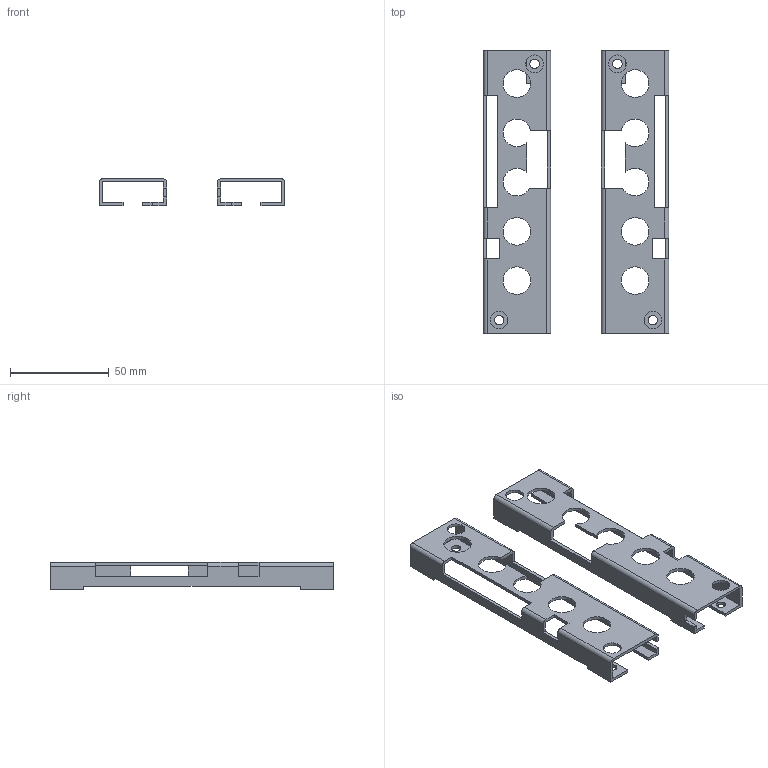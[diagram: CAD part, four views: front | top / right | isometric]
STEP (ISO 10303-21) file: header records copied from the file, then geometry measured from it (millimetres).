
FILE_DESCRIPTION (( 'STEP AP203' ), '1' );
FILE_NAME ('MS-NA3.STEP', '2005-10-27T00:16:06', ( '' ), ( '' ), 'SwSTEP 2.0', 'SolidWorks 2004073', '' );
FILE_SCHEMA (( 'CONFIG_CONTROL_DESIGN' ));
Length unit declared in the file: millimetre
Products named in the file (3): MS-NA3P_蹬怮椔; MS-NA3D_蹬怮椔; MS-NA3
Assembly tree (2 placements, depth 2):
  MS-NA3
    MS-NA3P_蹬怮椔
    MS-NA3D_蹬怮椔
Bounding box: 94.2 x 144 x 13.7 mm (x, y, z)
Volume: 19787.7 mm3; surface area: 28141.7 mm2
Topology: 2 solids, 2 shells, 128 faces, 400 edges, 264 vertices
Faces by surface type: plane 84, cylinder 44
Entity records: 4813 total; most frequent: ORIENTED_EDGE 800, CARTESIAN_POINT 797, DIRECTION 754, EDGE_CURVE 400, VECTOR 312, LINE 312, VERTEX_POINT 264, AXIS2_PLACEMENT_3D 221
